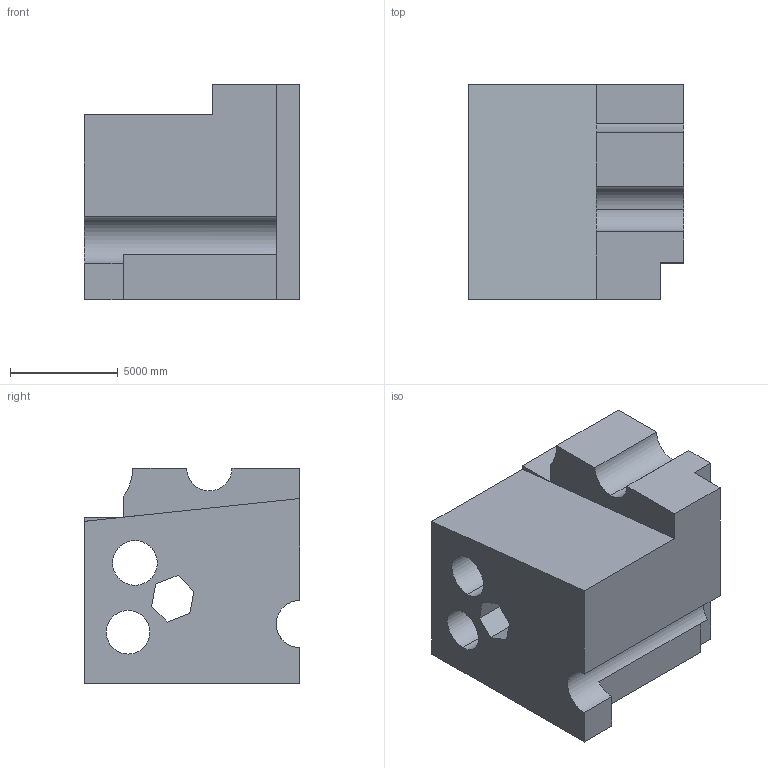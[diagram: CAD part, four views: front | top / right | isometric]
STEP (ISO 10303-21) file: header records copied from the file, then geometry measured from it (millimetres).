
FILE_DESCRIPTION (( 'STEP AP203' ), '1' );
FILE_NAME ('979.STEP', '2022-07-29T14:54:15', ( 'user' ), ( '' ), 'SwSTEP 2.0', 'SolidWorks 2021', '' );
FILE_SCHEMA (( 'CONFIG_CONTROL_DESIGN' ));
Length unit declared in the file: centimetre
Products named in the file (1): 979
Bounding box: 10000 x 10000 x 10000 mm (x, y, z)
Volume: 711771643900.6 mm3; surface area: 735766057.2 mm2
Topology: 1 solids, 1 shells, 32 faces, 88 edges, 58 vertices
Faces by surface type: plane 24, cylinder 8
Entity records: 1102 total; most frequent: CARTESIAN_POINT 179, ORIENTED_EDGE 176, DIRECTION 171, EDGE_CURVE 88, LINE 71, VECTOR 71, VERTEX_POINT 58, AXIS2_PLACEMENT_3D 50
